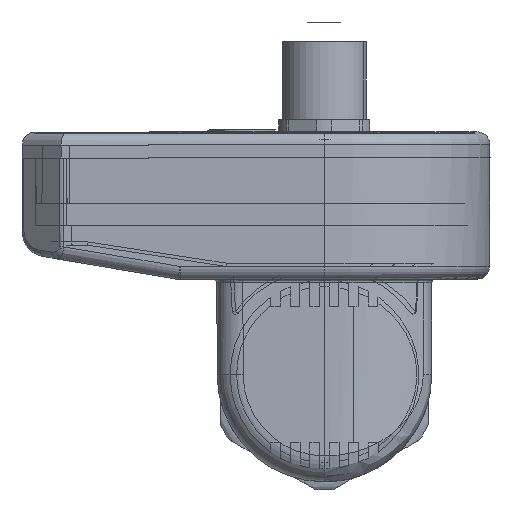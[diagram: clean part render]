
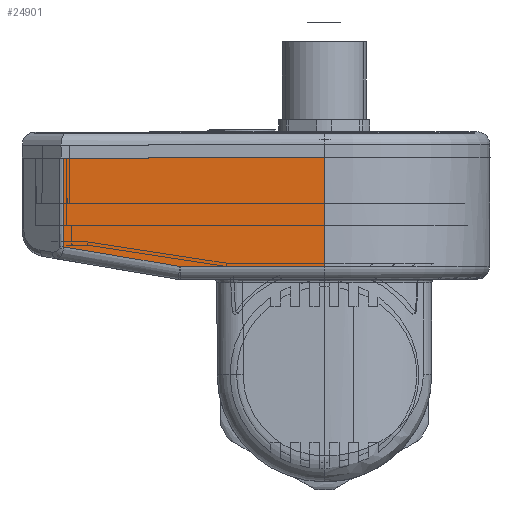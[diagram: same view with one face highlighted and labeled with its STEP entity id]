
A CAD part, left-side view. The second image highlights one B-rep face of the part: STEP entity #24901.
In plain terms, the highlighted planar face has unit normal (-1, 0, 0).
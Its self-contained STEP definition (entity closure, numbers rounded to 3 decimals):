
#1795=PLANE('',#27037);
#2681=LINE('',#37893,#4529);
#2700=LINE('',#39685,#4548);
#2961=LINE('',#45669,#4809);
#2962=LINE('',#45671,#4810);
#2971=LINE('',#45812,#4819);
#4529=VECTOR('',#30501,40.086);
#4548=VECTOR('',#30554,16.7);
#4809=VECTOR('',#31383,18.155);
#4810=VECTOR('',#31386,13.661);
#4819=VECTOR('',#31429,22.187);
#6948=FACE_OUTER_BOUND('',#8421,.T.);
#8421=EDGE_LOOP('',(#19728,#19729,#19730,#19731,#19732));
#10763=VERTEX_POINT('',#37890);
#10764=VERTEX_POINT('',#37892);
#10799=VERTEX_POINT('',#39684);
#11095=VERTEX_POINT('',#44941);
#11111=VERTEX_POINT('',#45664);
#13594=EDGE_CURVE('',#10763,#10764,#2681,.T.);
#13637=EDGE_CURVE('',#10799,#10764,#2700,.T.);
#14129=EDGE_CURVE('',#11095,#11111,#2961,.T.);
#14130=EDGE_CURVE('',#10763,#11095,#2962,.T.);
#14146=EDGE_CURVE('',#11111,#10799,#2971,.T.);
#19728=ORIENTED_EDGE('',*,*,#13594,.F.);
#19729=ORIENTED_EDGE('',*,*,#14130,.T.);
#19730=ORIENTED_EDGE('',*,*,#14129,.T.);
#19731=ORIENTED_EDGE('',*,*,#14146,.T.);
#19732=ORIENTED_EDGE('',*,*,#13637,.T.);
#24901=ADVANCED_FACE('',(#6948),#1795,.T.);
#27037=AXIS2_PLACEMENT_3D('',#45813,#31430,#31431);
#30501=DIRECTION('',(0.,-1.,0.001));
#30554=DIRECTION('',(0.,0.001,1.));
#31383=DIRECTION('',(0.,-0.986,-0.167));
#31386=DIRECTION('',(0.,-0.001,-1.));
#31429=DIRECTION('',(0.,-1.,0.001));
#31430=DIRECTION('center_axis',(-1.,0.,0.));
#31431=DIRECTION('ref_axis',(0.,-1.,0.001));
#37890=CARTESIAN_POINT('',(-156.,30.608,33.115));
#37892=CARTESIAN_POINT('',(-156.,-9.478,33.141));
#37893=CARTESIAN_POINT('',(-156.,30.608,33.115));
#39684=CARTESIAN_POINT('',(-156.,-9.489,16.441));
#39685=CARTESIAN_POINT('',(-156.,-9.489,16.441));
#44941=CARTESIAN_POINT('',(-156.,30.599,19.454));
#45664=CARTESIAN_POINT('',(-156.,12.698,16.426));
#45669=CARTESIAN_POINT('',(-156.,30.599,19.454));
#45671=CARTESIAN_POINT('',(-156.,30.608,33.115));
#45812=CARTESIAN_POINT('',(-156.,12.698,16.426));
#45813=CARTESIAN_POINT('Origin',(-156.,30.597,16.415));
